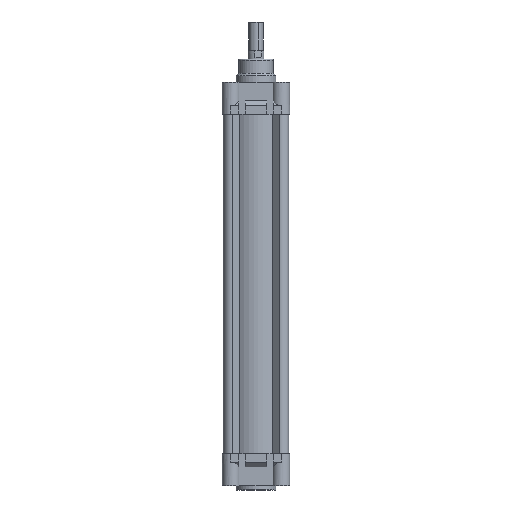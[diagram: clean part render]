
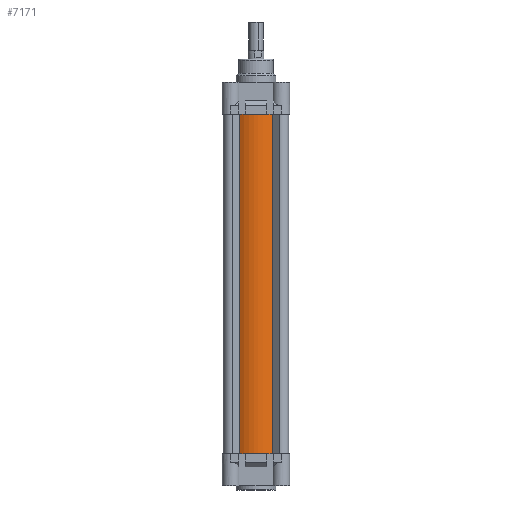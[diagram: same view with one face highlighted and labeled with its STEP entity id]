
A CAD part, front view. The second image highlights one B-rep face of the part: STEP entity #7171.
In plain terms, the highlighted cylindrical face has radius 34 mm (diameter 68 mm), a partial arc.
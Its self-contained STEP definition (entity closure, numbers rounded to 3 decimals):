
#480 = CARTESIAN_POINT ( 'NONE',  ( 55.319, 8.357, 0. ) ) ;
#563 = CARTESIAN_POINT ( 'NONE',  ( 37., 37., 0. ) ) ;
#1155 = VECTOR ( 'NONE', #14111, 1000. ) ;
#2312 = DIRECTION ( 'NONE',  ( 0., 0., 1. ) ) ;
#3290 = AXIS2_PLACEMENT_3D ( 'NONE', #563, #2312, #12206 ) ;
#3867 = EDGE_LOOP ( 'NONE', ( #12445, #20076, #18885, #16962 ) ) ;
#4225 = AXIS2_PLACEMENT_3D ( 'NONE', #4799, #16568, #13663 ) ;
#4383 = DIRECTION ( 'NONE',  ( 0., 0., -1. ) ) ;
#4566 = LINE ( 'NONE', #16046, #1155 ) ;
#4715 = CIRCLE ( 'NONE', #3290, 34. ) ;
#4799 = CARTESIAN_POINT ( 'NONE',  ( 37., 37., 383. ) ) ;
#5207 = VECTOR ( 'NONE', #4383, 1000. ) ;
#5539 = CYLINDRICAL_SURFACE ( 'NONE', #4225, 34. ) ;
#6412 = VERTEX_POINT ( 'NONE', #20659 ) ;
#6919 = VERTEX_POINT ( 'NONE', #19243 ) ;
#7171 = ADVANCED_FACE ( 'NONE', ( #14726 ), #5539, .T. ) ;
#9354 = DIRECTION ( 'NONE',  ( 1., 0., 0. ) ) ;
#10965 = AXIS2_PLACEMENT_3D ( 'NONE', #14514, #14443, #9354 ) ;
#12206 = DIRECTION ( 'NONE',  ( 1., 0., 0. ) ) ;
#12445 = ORIENTED_EDGE ( 'NONE', *, *, #16571, .T. ) ;
#13663 = DIRECTION ( 'NONE',  ( -1., 0., 0. ) ) ;
#13865 = LINE ( 'NONE', #14564, #5207 ) ;
#14111 = DIRECTION ( 'NONE',  ( 0., 0., -1. ) ) ;
#14443 = DIRECTION ( 'NONE',  ( 0., 0., 1. ) ) ;
#14514 = CARTESIAN_POINT ( 'NONE',  ( 37., 37., 383. ) ) ;
#14564 = CARTESIAN_POINT ( 'NONE',  ( 18.681, 8.357, 383. ) ) ;
#14631 = CARTESIAN_POINT ( 'NONE',  ( 55.319, 8.357, 383. ) ) ;
#14726 = FACE_OUTER_BOUND ( 'NONE', #3867, .T. ) ;
#15158 = VERTEX_POINT ( 'NONE', #14631 ) ;
#16046 = CARTESIAN_POINT ( 'NONE',  ( 55.319, 8.357, 383. ) ) ;
#16568 = DIRECTION ( 'NONE',  ( 0., 0., -1. ) ) ;
#16571 = EDGE_CURVE ( 'NONE', #6412, #20741, #4715, .T. ) ;
#16962 = ORIENTED_EDGE ( 'NONE', *, *, #18893, .T. ) ;
#17780 = CIRCLE ( 'NONE', #10965, 34. ) ;
#18885 = ORIENTED_EDGE ( 'NONE', *, *, #19853, .F. ) ;
#18893 = EDGE_CURVE ( 'NONE', #6919, #6412, #13865, .T. ) ;
#19243 = CARTESIAN_POINT ( 'NONE',  ( 18.681, 8.357, 383. ) ) ;
#19853 = EDGE_CURVE ( 'NONE', #6919, #15158, #17780, .T. ) ;
#20076 = ORIENTED_EDGE ( 'NONE', *, *, #20886, .F. ) ;
#20659 = CARTESIAN_POINT ( 'NONE',  ( 18.681, 8.357, 0. ) ) ;
#20741 = VERTEX_POINT ( 'NONE', #480 ) ;
#20886 = EDGE_CURVE ( 'NONE', #15158, #20741, #4566, .T. ) ;
